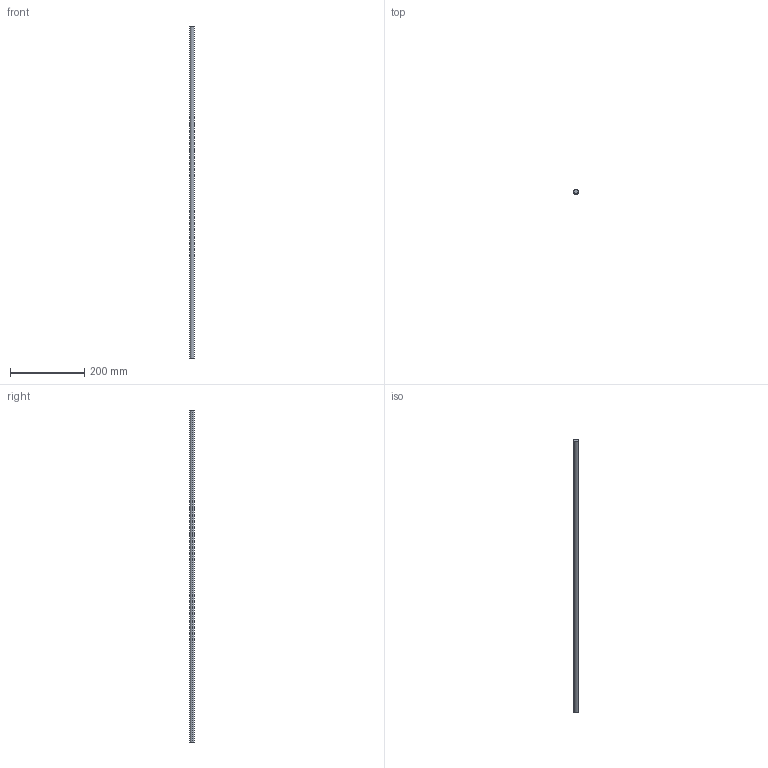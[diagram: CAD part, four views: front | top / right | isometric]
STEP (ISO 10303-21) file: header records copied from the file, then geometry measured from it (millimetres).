
FILE_DESCRIPTION (( 'STEP AP214' ), '1' );
FILE_NAME ('Magic Reling quer - S16_S17 - 1000.step', '2010-09-07T14:56:09', ( 'grass' ), ( '' ), 'SwSTEP 2.0', 'SolidWorks 2010', '' );
FILE_SCHEMA (( 'AUTOMOTIVE_DESIGN' ));
Length unit declared in the file: millimetre
Products named in the file (1): Magic Reling quer - S16_S17 - 1000
Bounding box: 12 x 12 x 895 mm (x, y, z)
Volume: 101222.1 mm3; surface area: 33966.9 mm2
Topology: 1 solids, 1 shells, 4 faces, 6 edges, 4 vertices
Faces by surface type: cylinder 2, plane 2
Entity records: 128 total; most frequent: DIRECTION 20, CARTESIAN_POINT 15, ORIENTED_EDGE 12, AXIS2_PLACEMENT_3D 9, EDGE_CURVE 6, VERTEX_POINT 4, ADVANCED_FACE 4, CIRCLE 4
